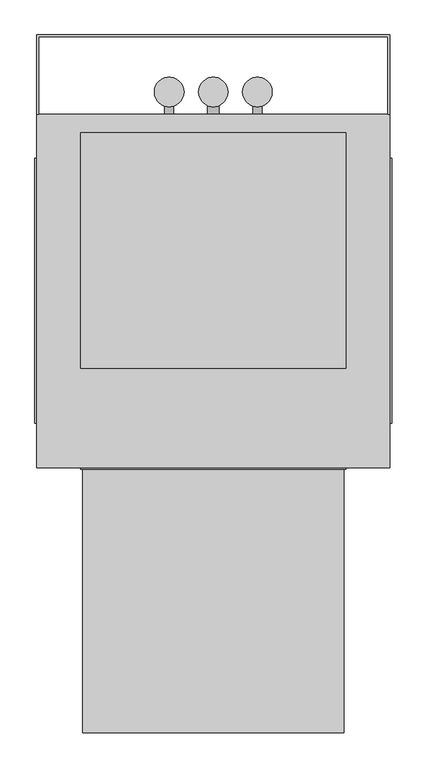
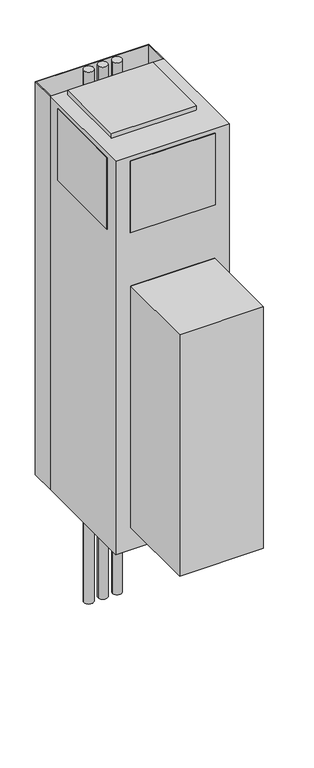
"""IFC4 building model written with IfcOpenShell, lengths in millimetres: proxy geometry, Exposed_Modular_Fan_Coil_Unit_-_MXY_-_IEC_-_2-Pipe_Cool-EHeat_-_WithRisers_2022 : Size 10 - 277v/60Hz/1Ph - 4 Row 8.0kW."""

import ifcopenshell
import ifcopenshell.guid

model = None  # the IFC model being written
_history = None  # IfcOwnerHistory: only IFC2X3 demands one
_inside = {}  # id of a spatial element -> (the spatial element, [elements in it])
_under = {}  # id of a project, library or spatial element -> (it, [spatial elements below it])
_declared = {}  # id of a project -> (the project, [libraries it declares])
_typed = {}  # id of a type object -> (the type object, [elements of that type])
_made_of = {}  # id of a material, layer set ... -> (it, [elements and type objects made of it])


def new_model(schema):
    """Start an empty IFC model of exactly this schema.

    Asked for "IFC4X3", IfcOpenShell would pick the latest addendum, in which some entities
    have other attributes; the version numbers below select the first issue.
    IFC2X3 requires an IfcOwnerHistory on every rooted entity: one is made here for all.
    """
    global model, _history
    if schema == "IFC4X3":
        model = ifcopenshell.file(schema_version=(4, 3, 0, 0))
    else:
        model = ifcopenshell.file(schema=schema)
    _inside.clear()
    _under.clear()
    _declared.clear()
    _typed.clear()
    _made_of.clear()
    _history = None
    if model.schema == "IFC2X3":
        org = make("IfcOrganization", Name="unknown")
        user = make(
            "IfcPersonAndOrganization",
            ThePerson=make("IfcPerson", FamilyName="unknown"),
            TheOrganization=org,
        )
        app = make(
            "IfcApplication",
            ApplicationDeveloper=org,
            Version="unknown",
            ApplicationFullName="unknown",
            ApplicationIdentifier="unknown",
        )
        _history = make(
            "IfcOwnerHistory",
            OwningUser=user,
            OwningApplication=app,
            ChangeAction="ADDED",
            CreationDate=0,
        )
    return model


def make(cls, **values):
    """One entity of the class cls with the attributes given. An attribute that is None is left unset."""
    return model.create_entity(
        cls, **{name: value for name, value in values.items() if value is not None}
    )


def rooted(cls, **values):
    """An entity with a GlobalId (a new one), such as an element, a storey or a relation."""
    return make(cls, GlobalId=ifcopenshell.guid.new(), OwnerHistory=_history, **values)


def si_unit(unit_type, name, prefix=None):
    """IfcSIUnit, for example si_unit("LENGTHUNIT", "METRE", prefix="MILLI")."""
    return make("IfcSIUnit", UnitType=unit_type, Prefix=prefix, Name=name)


def assignment(units):
    """IfcUnitAssignment: the units of a project."""
    return None if units is None else make("IfcUnitAssignment", Units=units)


def point(xyz):
    """IfcCartesianPoint."""
    return None if xyz is None else make("IfcCartesianPoint", Coordinates=xyz)


def direction(xyz):
    """IfcDirection."""
    return None if xyz is None else make("IfcDirection", DirectionRatios=xyz)


def frame(location, z_axis=None, x_axis=None):
    """IfcAxis2Placement3D, a coordinate frame: its origin and axes. An axis left out is left unset."""
    return make(
        "IfcAxis2Placement3D",
        Location=point(location),
        Axis=direction(z_axis),
        RefDirection=direction(x_axis),
    )


def frame_2d(location, x_axis=None):
    """IfcAxis2Placement2D, a coordinate frame in the plane: its origin and x axis."""
    return make(
        "IfcAxis2Placement2D", Location=point(location), RefDirection=direction(x_axis)
    )


def origin():
    """The frame at (0, 0, 0) with its axes left unset."""
    return frame((0.0, 0.0, 0.0))


def origin_with_axes():
    """The frame at (0, 0, 0) with the z axis (0, 0, 1) and the x axis (1, 0, 0) written out."""
    return frame((0.0, 0.0, 0.0), z_axis=(0.0, 0.0, 1.0), x_axis=(1.0, 0.0, 0.0))


def place(relative_to, where):
    """IfcLocalPlacement: puts the frame where relative to a parent placement (None: the world)."""
    return make(
        "IfcLocalPlacement", PlacementRelTo=relative_to, RelativePlacement=where
    )


def context(
    kind, dimensions, precision=None, world=None, true_north=None, identifier=None
):
    """IfcGeometricRepresentationContext, for example the 3D "Model" context."""
    return make(
        "IfcGeometricRepresentationContext",
        ContextIdentifier=identifier,
        ContextType=kind,
        CoordinateSpaceDimension=dimensions,
        Precision=precision,
        WorldCoordinateSystem=world,
        TrueNorth=true_north,
    )


def project(units=None, contexts=None):
    """IfcProject with its units and contexts."""
    return rooted(
        "IfcProject",
        Name="project",
        RepresentationContexts=contexts,
        UnitsInContext=assignment(units),
    )


def spatial(cls, under=None, at=None, **own):
    """A site, building, storey or space (cls), placed at a placement, below another one or the project."""
    s = rooted(cls, ObjectPlacement=at, **own)
    if under is not None:
        _under.setdefault(under.id(), (under, []))[1].append(s)
    return s


def polyline(points):
    """IfcPolyline through the points."""
    return make("IfcPolyline", Points=[point(p) for p in points])


def circle_curve(where, radius):
    """IfcCircle in the frame where."""
    return make("IfcCircle", Position=where, Radius=radius)


def trimmed(basis, trim1, trim2, sense, master):
    """IfcTrimmedCurve: the piece of a basis curve between two trims."""
    return make(
        "IfcTrimmedCurve",
        BasisCurve=basis,
        Trim1=trim1,
        Trim2=trim2,
        SenseAgreement=sense,
        MasterRepresentation=master,
    )


def segment(curve, same_sense, transition):
    """IfcCompositeCurveSegment."""
    return make(
        "IfcCompositeCurveSegment",
        Transition=transition,
        SameSense=same_sense,
        ParentCurve=curve,
    )


def composite_curve(segments, self_intersect=None):
    """IfcCompositeCurve: segments joined end to end."""
    return make("IfcCompositeCurve", Segments=segments, SelfIntersect=self_intersect)


def outline(outer, holes=None, kind="AREA"):
    """IfcArbitraryClosedProfileDef: a profile drawn as a closed curve; with holes, ...WithVoids."""
    if holes is None:
        return make("IfcArbitraryClosedProfileDef", ProfileType=kind, OuterCurve=outer)
    return make(
        "IfcArbitraryProfileDefWithVoids",
        ProfileType=kind,
        OuterCurve=outer,
        InnerCurves=holes,
    )


def extrude(swept, where, along, depth):
    """IfcExtrudedAreaSolid: the profile swept, set in the frame where, extruded along a direction by depth."""
    return make(
        "IfcExtrudedAreaSolid",
        SweptArea=swept,
        Position=where,
        ExtrudedDirection=direction(along),
        Depth=depth,
    )


def shape(context_of_items, identifier, shape_type, items):
    """IfcShapeRepresentation: the items that make up one representation, for example the "Body"."""
    return make(
        "IfcShapeRepresentation",
        ContextOfItems=context_of_items,
        RepresentationIdentifier=identifier,
        RepresentationType=shape_type,
        Items=items,
    )


def source(mapping_origin, context_of_items, identifier, shape_type, items):
    """IfcRepresentationMap: a shape defined once, which mapped items show again and again."""
    return make(
        "IfcRepresentationMap",
        MappingOrigin=mapping_origin,
        MappedRepresentation=shape(context_of_items, identifier, shape_type, items),
    )


def transform(
    local_origin,
    x_axis=None,
    y_axis=None,
    z_axis=None,
    scale=None,
    scale2=None,
    scale3=None,
    uniform=True,
):
    """IfcCartesianTransformationOperator3D, or its non-uniform kind. x_axis, y_axis, z_axis: its Axis1, 2, 3."""
    if uniform:
        return make(
            "IfcCartesianTransformationOperator3D",
            Axis1=direction(x_axis),
            Axis2=direction(y_axis),
            LocalOrigin=point(local_origin),
            Scale=scale,
            Axis3=direction(z_axis),
        )
    return make(
        "IfcCartesianTransformationOperator3DnonUniform",
        Axis1=direction(x_axis),
        Axis2=direction(y_axis),
        LocalOrigin=point(local_origin),
        Scale=scale,
        Axis3=direction(z_axis),
        Scale2=scale2,
        Scale3=scale3,
    )


def mapped(mapping_source, mapping_target):
    """IfcMappedItem: shows the shape of a source again, moved by a transform."""
    return make(
        "IfcMappedItem", MappingSource=mapping_source, MappingTarget=mapping_target
    )


def made_of(thing, what):
    """Note that an element or type object is made of a material, layer set ...; save() writes the relation."""
    if what is not None:
        _made_of.setdefault(what.id(), (what, []))[1].append(thing)
    return thing


def element(
    cls,
    number,
    at=None,
    inside=None,
    cuts=None,
    type_object=None,
    material=None,
    context=None,
    identifier="Body",
    shape_type=None,
    held_by="IfcProductDefinitionShape",
    body=None,
    shapes=None,
    **own,
):
    """One element of the class cls, such as IfcWall. Its Tag is "e" and its number.

    at: its placement. inside: the storey or other place that contains it. cuts: it is an
    opening in that element (IfcRelVoidsElement). A single representation is given by context,
    identifier, shape_type and body (its items); several are given by shapes. held_by: the class
    of the entity that holds the representations. save() writes the other relations.
    """
    e = rooted(cls, Tag="e%d" % number, ObjectPlacement=at, **own)
    if body is not None:
        shapes = [shape(context, identifier, shape_type, body)]
    if shapes is not None:
        e.Representation = make(held_by, Representations=shapes)
    if inside is not None:
        _inside.setdefault(inside.id(), (inside, []))[1].append(e)
    if cuts is not None:
        rooted(
            "IfcRelVoidsElement", RelatingBuildingElement=cuts, RelatedOpeningElement=e
        )
    if type_object is not None:
        _typed.setdefault(type_object.id(), (type_object, []))[1].append(e)
    return made_of(e, material)


def aggregate(whole, parts):
    """IfcRelAggregates: a whole, such as a stair, and the parts it consists of."""
    return rooted("IfcRelAggregates", RelatingObject=whole, RelatedObjects=parts)


def save(model, path):
    """Write the relations noted so far, then the file.

    IfcRelAggregates (storeys below a building ...), IfcRelContainedInSpatialStructure (elements
    in a storey), IfcRelDefinesByType, IfcRelAssociatesMaterial and IfcRelDeclares: one each for
    every whole, place, type object, material and project.
    """
    for whole, parts in _under.values():
        aggregate(whole, parts)
    for where, things in _inside.values():
        rooted(
            "IfcRelContainedInSpatialStructure",
            RelatedElements=things,
            RelatingStructure=where,
        )
    for kind, things in _typed.values():
        rooted("IfcRelDefinesByType", RelatedObjects=things, RelatingType=kind)
    for what, things in _made_of.values():
        rooted("IfcRelAssociatesMaterial", RelatedObjects=things, RelatingMaterial=what)
    for by, libraries in _declared.values():
        rooted("IfcRelDeclares", RelatingContext=by, RelatedDefinitions=libraries)
    model.write(path)


def mechanical_equipment_40261242(model_context):
    return source(origin(), model_context, "Body", "SweptSolid", [
        extrude(outline(polyline([(1356.1480703, 566.8118862), (1346.2, 598.9852728), (1488.3709244, 598.9852728), (1465.3489183, 566.8118862), (1356.1480703, 566.8118862)])), frame((0.0, -371.475, 0.0), z_axis=(0.0, 1.0, 0.0), x_axis=(0.0, 0.0, 1.0)), (0.0, 0.0, 1.0), 3.175),
        extrude(outline(polyline([(1435.1473557, 605.7436058), (1431.9449632, 631.825), (1461.1738042, 631.825), (1469.2382193, 605.7436058), (1435.1473557, 605.7436058)])), frame((0.0, -371.475, 0.0), z_axis=(0.0, 1.0, 0.0), x_axis=(0.0, 0.0, 1.0)), (0.0, 0.0, 1.0), 3.175),
        extrude(outline(polyline([(1383.2838288, 631.825), (1379.6183279, 605.7436058), (1346.2, 605.7436058), (1354.8342372, 631.825), (1383.2838288, 631.825)])), frame((0.0, -371.475, 0.0), z_axis=(0.0, 1.0, 0.0), x_axis=(0.0, 0.0, 1.0)), (0.0, 0.0, 1.0), 3.175),
        extrude(outline(polyline([(1422.5989903, 631.825), (1424.8808166, 605.7436058), (1388.9432681, 605.7436058), (1391.6845331, 631.825), (1422.5989903, 631.825)])), frame((0.0, -371.475, 0.0), z_axis=(0.0, 1.0, 0.0), x_axis=(0.0, 0.0, 1.0)), (0.0, 0.0, 1.0), 3.175),
        extrude(outline(composite_curve([segment(trimmed(circle_curve(frame_2d((381.0, 282.575)), 25.4), [point((406.4, 282.575))], [point((355.6, 282.575))], False, "CARTESIAN"), True, "CONTINUOUS"), segment(trimmed(circle_curve(frame_2d((381.0, 282.575)), 25.4), [point((355.6, 282.575))], [point((406.4, 282.575))], False, "CARTESIAN"), True, "CONTINUOUS")], self_intersect=False)), frame((0.0, 0.0, -736.6), z_axis=(0.0, 0.0, 1.0), x_axis=(1.0, 0.0, 0.0)), (0.0, 0.0, 1.0), 3022.6),
        extrude(outline(composite_curve([segment(trimmed(circle_curve(frame_2d((457.2, 282.575)), 25.4), [point((482.6, 282.575))], [point((431.8, 282.575))], False, "CARTESIAN"), True, "CONTINUOUS"), segment(trimmed(circle_curve(frame_2d((457.2, 282.575)), 25.4), [point((431.8, 282.575))], [point((482.6, 282.575))], False, "CARTESIAN"), True, "CONTINUOUS")], self_intersect=False)), frame((0.0, 0.0, -736.6), z_axis=(0.0, 0.0, 1.0), x_axis=(1.0, 0.0, 0.0)), (0.0, 0.0, 1.0), 3022.6),
        extrude(outline(composite_curve([segment(trimmed(circle_curve(frame_2d((533.4, 282.575)), 25.4), [point((558.8, 282.575))], [point((508.0, 282.575))], False, "CARTESIAN"), True, "CONTINUOUS"), segment(trimmed(circle_curve(frame_2d((533.4, 282.575)), 25.4), [point((508.0, 282.575))], [point((558.8, 282.575))], False, "CARTESIAN"), True, "CONTINUOUS")], self_intersect=False)), frame((0.0, 0.0, -736.6), z_axis=(0.0, 0.0, 1.0), x_axis=(1.0, 0.0, 0.0)), (0.0, 0.0, 1.0), 3022.6),
        extrude(outline(polyline([(682.625, -368.3), (682.625, -822.325), (231.775, -822.325), (231.775, -368.3), (682.625, -368.3)])), frame((0.0, 0.0, 127.0), z_axis=(0.0, 0.0, 1.0), x_axis=(1.0, 0.0, 0.0)), (0.0, 0.0, 1.0), 1371.6),
        extrude(outline(polyline([(152.4, 381.0), (762.0, 381.0), (762.0, 244.475), (758.825, 244.475), (758.825, 377.825), (155.575, 377.825), (155.575, 244.475), (152.4, 244.475), (152.4, 381.0)])), origin_with_axes(), (0.0, 0.0, 1.0), 2235.2),
        extrude(outline(composite_curve([segment(trimmed(circle_curve(frame_2d((990.6, 533.4)), 7.9375), [point((990.6, 541.3375))], [point((990.6, 525.4625))], False, "CARTESIAN"), True, "CONTINUOUS"), segment(trimmed(circle_curve(frame_2d((990.6, 533.4)), 7.9375), [point((990.6, 525.4625))], [point((990.6, 541.3375))], False, "CARTESIAN"), True, "CONTINUOUS")], self_intersect=False)), frame((0.0, 244.475, 0.0), z_axis=(0.0, 1.0, 0.0), x_axis=(0.0, 0.0, 1.0)), (0.0, 0.0, 1.0), 25.4),
        extrude(outline(composite_curve([segment(trimmed(circle_curve(frame_2d((990.6, 381.0)), 7.9375), [point((990.6, 388.9375))], [point((990.6, 373.0625))], False, "CARTESIAN"), True, "CONTINUOUS"), segment(trimmed(circle_curve(frame_2d((990.6, 381.0)), 7.9375), [point((990.6, 373.0625))], [point((990.6, 388.9375))], False, "CARTESIAN"), True, "CONTINUOUS")], self_intersect=False)), frame((0.0, 244.475, 0.0), z_axis=(0.0, 1.0, 0.0), x_axis=(0.0, 0.0, 1.0)), (0.0, 0.0, 1.0), 25.4),
        extrude(outline(composite_curve([segment(trimmed(circle_curve(frame_2d((127.0, 457.2)), 9.525), [point((127.0, 466.725))], [point((127.0, 447.675))], False, "CARTESIAN"), True, "CONTINUOUS"), segment(trimmed(circle_curve(frame_2d((127.0, 457.2)), 9.525), [point((127.0, 447.675))], [point((127.0, 466.725))], False, "CARTESIAN"), True, "CONTINUOUS")], self_intersect=False)), frame((0.0, 244.475, 0.0), z_axis=(0.0, 1.0, 0.0), x_axis=(0.0, 0.0, 1.0)), (0.0, 0.0, 1.0), 25.4),
        extrude(outline(polyline([(682.625, -368.3), (231.775, -368.3), (231.775, -365.125), (682.625, -365.125), (682.625, -368.3)])), frame((0.0, 0.0, 127.0), z_axis=(0.0, 0.0, 1.0), x_axis=(1.0, 0.0, 0.0)), (0.0, 0.0, 1.0), 1371.6),
        extrude(outline(polyline([(765.175, 168.275), (765.175, -288.925), (762.0, -288.925), (762.0, 168.275), (765.175, 168.275)])), frame((0.0, 0.0, 1803.4), z_axis=(0.0, 0.0, 1.0), x_axis=(1.0, 0.0, 0.0)), (0.0, 0.0, 1.0), 406.4),
        extrude(outline(polyline([(149.225, -288.925), (149.225, 168.275), (152.4, 168.275), (152.4, -288.925), (149.225, -288.925)])), frame((0.0, 0.0, 1803.4), z_axis=(0.0, 0.0, 1.0), x_axis=(1.0, 0.0, 0.0)), (0.0, 0.0, 1.0), 406.4),
        extrude(outline(polyline([(685.8, -368.3), (228.6, -368.3), (228.6, -365.125), (685.8, -365.125), (685.8, -368.3)])), frame((0.0, 0.0, 1803.4), z_axis=(0.0, 0.0, 1.0), x_axis=(1.0, 0.0, 0.0)), (0.0, 0.0, 1.0), 406.4),
        extrude(outline(polyline([(685.8, 212.725), (685.8, -193.675), (228.6, -193.675), (228.6, 212.725), (685.8, 212.725)])), frame((0.0, 0.0, 2235.2), z_axis=(0.0, 0.0, 1.0), x_axis=(1.0, 0.0, 0.0)), (0.0, 0.0, 1.0), 25.4),
        extrude(outline(polyline([(762.0, 244.475), (762.0, -365.125), (152.4, -365.125), (152.4, 244.475), (762.0, 244.475)])), origin_with_axes(), (0.0, 0.0, 1.0), 2235.2),
    ])


if __name__ == "__main__":
    model = new_model("IFC4")
    model_context = context("Model", 3, world=origin())
    ifc_project = project(units=[si_unit("LENGTHUNIT", "METRE", prefix="MILLI")], contexts=[model_context])
    site = spatial("IfcSite", under=ifc_project)
    building = spatial("IfcBuilding", under=site)
    placement = place(None, origin())
    mechanical_equipment_shape = mechanical_equipment_40261242(model_context)
    element("IfcBuildingElementProxy", 1, Name="Exposed_Modular_Fan_Coil_Unit_-_MXY_-_IEC_-_2-Pipe_Cool-EHeat_-_WithRisers_2022 : Size 10 - 277v/60Hz/1Ph - 4 Row 8.0kW", ObjectType="Exposed_Modular_Fan_Coil_Unit_-_MXY_-_IEC_-_2-Pipe_Cool-EHeat_-_WithRisers_2022 : Size 10 - 277v/60Hz/1Ph - 4 Row 8.0kW", at=placement, inside=building, context=model_context, shape_type="MappedRepresentation", body=[
        mapped(mechanical_equipment_shape, transform((0.0, 0.0, 0.0), x_axis=(1.0, 0.0, 0.0), y_axis=(0.0, 1.0, 0.0), z_axis=(0.0, 0.0, 1.0))),
    ])
    save(model, "model.ifc")
